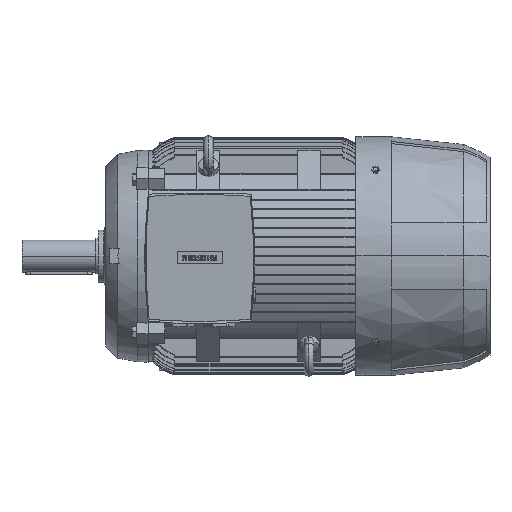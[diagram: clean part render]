
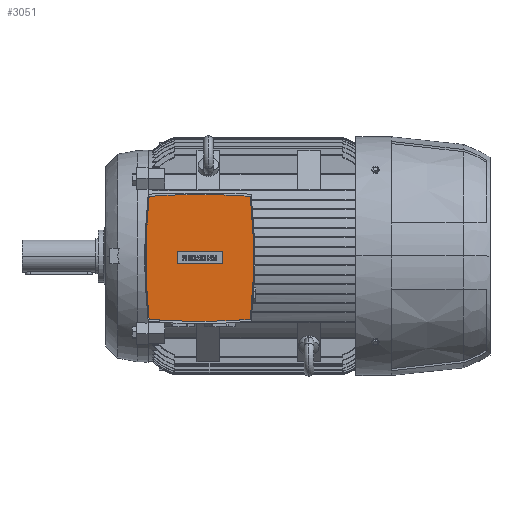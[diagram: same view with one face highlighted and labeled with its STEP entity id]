
A CAD part, top view. The second image highlights one B-rep face of the part: STEP entity #3051.
In plain terms, the highlighted planar face has unit normal (0, 0, 1).
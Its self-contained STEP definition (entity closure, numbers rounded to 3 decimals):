
#3051=ADVANCED_FACE('',(#6704,#6705),#6706,.T.);
#6704=FACE_BOUND('',#10973,.T.);
#6705=FACE_OUTER_BOUND('',#10974,.T.);
#6706=PLANE('',#10975);
#10973=EDGE_LOOP('',(#20621,#20622,#20623,#20624));
#10974=EDGE_LOOP('',(#20625,#20626,#20627,#20628,#20629,#20630));
#10975=AXIS2_PLACEMENT_3D('',#20631,#20632,#20633);
#20621=ORIENTED_EDGE('',*,*,#29672,.T.);
#20622=ORIENTED_EDGE('',*,*,#29676,.T.);
#20623=ORIENTED_EDGE('',*,*,#29679,.T.);
#20624=ORIENTED_EDGE('',*,*,#29681,.T.);
#20625=ORIENTED_EDGE('',*,*,#29731,.T.);
#20626=ORIENTED_EDGE('',*,*,#29733,.T.);
#20627=ORIENTED_EDGE('',*,*,#26696,.T.);
#20628=ORIENTED_EDGE('',*,*,#29723,.T.);
#20629=ORIENTED_EDGE('',*,*,#26707,.T.);
#20630=ORIENTED_EDGE('',*,*,#29719,.T.);
#20631=CARTESIAN_POINT('',(77.0,-3.0,286.0));
#20632=DIRECTION('',(0.0,0.0,1.0));
#20633=DIRECTION('',(0.0,-1.0,0.0));
#26696=EDGE_CURVE('',#32395,#32399,#32401,.T.);
#26707=EDGE_CURVE('',#32421,#32418,#32422,.T.);
#29672=EDGE_CURVE('',#36862,#36860,#36863,.T.);
#29676=EDGE_CURVE('',#36860,#36866,#36868,.T.);
#29679=EDGE_CURVE('',#36866,#36870,#36872,.T.);
#29681=EDGE_CURVE('',#36870,#36862,#36874,.T.);
#29719=EDGE_CURVE('',#32418,#36926,#36928,.T.);
#29723=EDGE_CURVE('',#32399,#32421,#36932,.T.);
#29731=EDGE_CURVE('',#36926,#36940,#36942,.T.);
#29733=EDGE_CURVE('',#36940,#32395,#36944,.T.);
#32395=VERTEX_POINT('',#42300);
#32399=VERTEX_POINT('',#42305);
#32401=CIRCLE('',#42308,1019.7);
#32418=VERTEX_POINT('',#42394);
#32421=VERTEX_POINT('',#42398);
#32422=CIRCLE('',#42399,1019.7);
#36860=VERTEX_POINT('',#54276);
#36862=VERTEX_POINT('',#54279);
#36863=LINE('',#54280,#54281);
#36866=VERTEX_POINT('',#54285);
#36868=LINE('',#54288,#54289);
#36870=VERTEX_POINT('',#54291);
#36872=LINE('',#54294,#54295);
#36874=LINE('',#54297,#54298);
#36926=VERTEX_POINT('',#54357);
#36928=CIRCLE('',#54360,1019.7);
#36932=CIRCLE('',#54364,836.0);
#36940=VERTEX_POINT('',#54373);
#36942=CIRCLE('',#54376,836.0);
#36944=CIRCLE('',#54378,1019.7);
#42300=CARTESIAN_POINT('',(77.,-97.5,286.0));
#42305=CARTESIAN_POINT('',(152.455,-94.704,286.0));
#42308=AXIS2_PLACEMENT_3D('',#61160,#61161,#61162);
#42394=CARTESIAN_POINT('',(77.,91.5,286.0));
#42398=CARTESIAN_POINT('',(152.455,88.704,286.0));
#42399=AXIS2_PLACEMENT_3D('',#61172,#61173,#61174);
#54276=CARTESIAN_POINT('',(43.25,-12.05,286.0));
#54279=CARTESIAN_POINT('',(110.75,-12.05,286.0));
#54280=CARTESIAN_POINT('',(77.0,-12.05,286.0));
#54281=VECTOR('',#64343,1.0);
#54285=CARTESIAN_POINT('',(43.25,6.05,286.0));
#54288=CARTESIAN_POINT('',(43.25,-3.0,286.0));
#54289=VECTOR('',#64346,1.0);
#54291=CARTESIAN_POINT('',(110.75,6.05,286.0));
#54294=CARTESIAN_POINT('',(77.0,6.05,286.0));
#54295=VECTOR('',#64348,1.0);
#54297=CARTESIAN_POINT('',(110.75,-3.0,286.0));
#54298=VECTOR('',#64349,1.0);
#54357=CARTESIAN_POINT('',(1.545,88.704,286.0));
#54360=AXIS2_PLACEMENT_3D('',#64415,#64416,#64417);
#54364=AXIS2_PLACEMENT_3D('',#64421,#64422,#64423);
#54373=CARTESIAN_POINT('',(1.545,-94.704,286.0));
#54376=AXIS2_PLACEMENT_3D('',#64432,#64433,#64434);
#54378=AXIS2_PLACEMENT_3D('',#64435,#64436,#64437);
#61160=CARTESIAN_POINT('',(77.0,922.2,286.0));
#61161=DIRECTION('',(0.0,-0.0,1.0));
#61162=DIRECTION('',(0.0,1.0,0.0));
#61172=CARTESIAN_POINT('',(77.0,-928.2,286.0));
#61173=DIRECTION('',(0.0,-0.0,1.0));
#61174=DIRECTION('',(0.0,1.0,0.0));
#64343=DIRECTION('',(-1.0,0.0,0.0));
#64346=DIRECTION('',(0.0,1.0,0.0));
#64348=DIRECTION('',(1.0,0.0,-0.0));
#64349=DIRECTION('',(0.0,-1.0,0.0));
#64415=CARTESIAN_POINT('',(77.0,-928.2,286.0));
#64416=DIRECTION('',(0.0,-0.0,1.0));
#64417=DIRECTION('',(0.0,1.0,0.0));
#64421=CARTESIAN_POINT('',(-678.5,-3.0,286.0));
#64422=DIRECTION('',(0.0,-0.0,1.0));
#64423=DIRECTION('',(0.0,1.0,0.0));
#64432=CARTESIAN_POINT('',(832.5,-3.0,286.0));
#64433=DIRECTION('',(0.0,-0.0,1.0));
#64434=DIRECTION('',(0.0,1.0,0.0));
#64435=CARTESIAN_POINT('',(77.0,922.2,286.0));
#64436=DIRECTION('',(0.0,-0.0,1.0));
#64437=DIRECTION('',(0.0,1.0,0.0));
